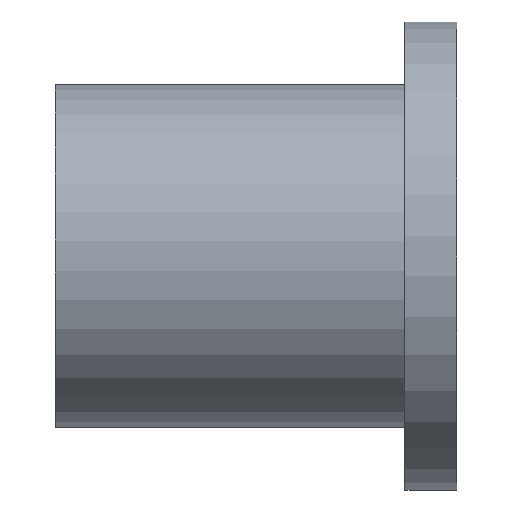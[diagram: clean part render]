
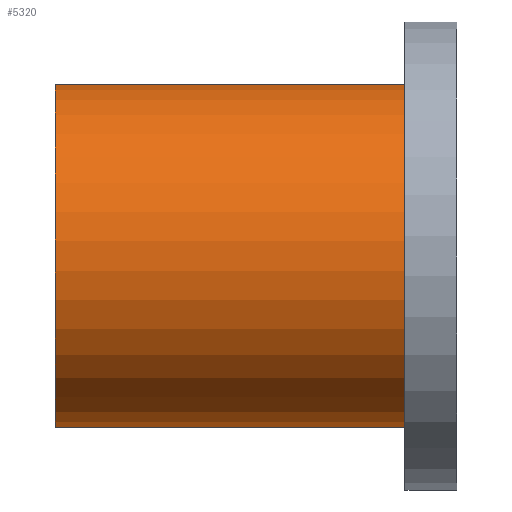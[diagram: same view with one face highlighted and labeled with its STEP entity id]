
A CAD part, front view. The second image highlights one B-rep face of the part: STEP entity #5320.
In plain terms, the highlighted cylindrical face has radius 60 mm (diameter 120 mm), a full revolution.
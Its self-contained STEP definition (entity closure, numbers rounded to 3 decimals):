
#83=CYLINDRICAL_SURFACE('',#5662,60.);
#108=CIRCLE('',#5663,60.);
#109=CIRCLE('',#5664,60.);
#1593=ORIENTED_EDGE('',*,*,#3121,.T.);
#1594=ORIENTED_EDGE('',*,*,#3122,.T.);
#3121=EDGE_CURVE('',#3885,#3885,#108,.T.);
#3122=EDGE_CURVE('',#3886,#3886,#109,.F.);
#3885=VERTEX_POINT('',#8446);
#3886=VERTEX_POINT('',#8448);
#4337=EDGE_LOOP('',(#1593));
#4338=EDGE_LOOP('',(#1594));
#4731=FACE_BOUND('',#4337,.T.);
#4732=FACE_BOUND('',#4338,.T.);
#5320=ADVANCED_FACE('',(#4731,#4732),#83,.T.);
#5662=AXIS2_PLACEMENT_3D('',#8444,#6138,#6139);
#5663=AXIS2_PLACEMENT_3D('',#8445,#6140,#6141);
#5664=AXIS2_PLACEMENT_3D('',#8447,#6142,#6143);
#6138=DIRECTION('',(1.,0.,0.));
#6139=DIRECTION('',(0.,0.707,-0.707));
#6140=DIRECTION('',(1.,0.,0.));
#6141=DIRECTION('',(0.,0.707,-0.707));
#6142=DIRECTION('',(1.,0.,0.));
#6143=DIRECTION('',(0.,0.707,-0.707));
#8444=CARTESIAN_POINT('',(-70.,0.,0.));
#8445=CARTESIAN_POINT('',(-70.,0.,0.));
#8446=CARTESIAN_POINT('',(-70.,42.426,-42.426));
#8447=CARTESIAN_POINT('',(52.,0.,0.));
#8448=CARTESIAN_POINT('',(52.,42.426,-42.426));
